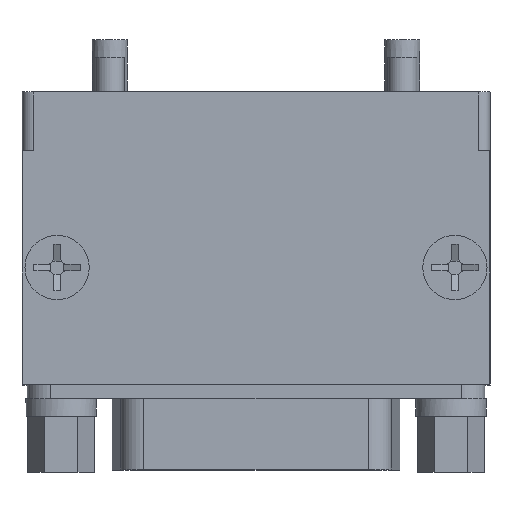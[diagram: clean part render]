
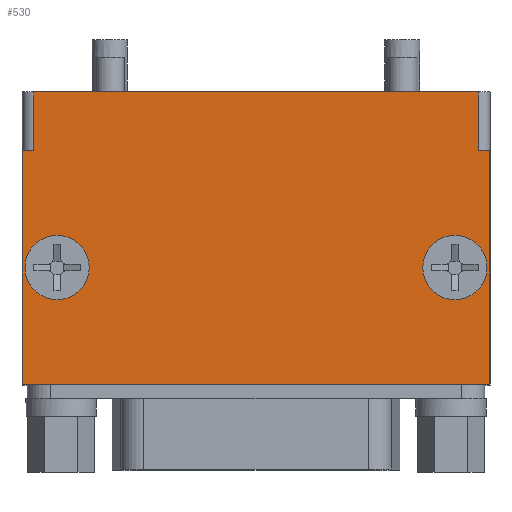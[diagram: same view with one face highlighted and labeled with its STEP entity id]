
A CAD part, top view. The second image highlights one B-rep face of the part: STEP entity #530.
In plain terms, the highlighted planar face has unit normal (0, 0, 1).
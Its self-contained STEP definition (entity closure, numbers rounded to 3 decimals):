
#530=ADVANCED_FACE('',(#1334,#1335,#1336),#1337,.F.);
#1334=FACE_BOUND('',#2570,.T.);
#1335=FACE_BOUND('',#2571,.T.);
#1336=FACE_OUTER_BOUND('',#2572,.T.);
#1337=PLANE('',#2573);
#2570=EDGE_LOOP('',(#4061));
#2571=EDGE_LOOP('',(#4062));
#2572=EDGE_LOOP('',(#4063,#4064,#4065,#4066,#4067,#4068,#4069,#4070));
#2573=AXIS2_PLACEMENT_3D('',#4071,#4072,#4073);
#4061=ORIENTED_EDGE('',*,*,#6393,.F.);
#4062=ORIENTED_EDGE('',*,*,#6394,.F.);
#4063=ORIENTED_EDGE('',*,*,#6395,.F.);
#4064=ORIENTED_EDGE('',*,*,#6363,.T.);
#4065=ORIENTED_EDGE('',*,*,#6396,.T.);
#4066=ORIENTED_EDGE('',*,*,#6374,.T.);
#4067=ORIENTED_EDGE('',*,*,#6397,.T.);
#4068=ORIENTED_EDGE('',*,*,#6333,.T.);
#4069=ORIENTED_EDGE('',*,*,#6398,.T.);
#4070=ORIENTED_EDGE('',*,*,#6327,.T.);
#4071=CARTESIAN_POINT('',(20.0,-5.0,12.5));
#4072=DIRECTION('',(0.0,0.0,-1.0));
#4073=DIRECTION('',(0.0,-1.0,0.0));
#6327=EDGE_CURVE('',#7358,#7355,#7359,.T.);
#6333=EDGE_CURVE('',#7368,#7366,#7369,.T.);
#6363=EDGE_CURVE('',#7420,#7417,#7421,.T.);
#6374=EDGE_CURVE('',#7436,#7434,#7437,.T.);
#6393=EDGE_CURVE('',#7462,#7462,#7463,.T.);
#6394=EDGE_CURVE('',#7464,#7464,#7465,.T.);
#6395=EDGE_CURVE('',#7420,#7355,#7466,.T.);
#6396=EDGE_CURVE('',#7417,#7436,#7467,.T.);
#6397=EDGE_CURVE('',#7434,#7368,#7468,.T.);
#6398=EDGE_CURVE('',#7366,#7358,#7469,.T.);
#7355=VERTEX_POINT('',#8834);
#7358=VERTEX_POINT('',#8837);
#7359=LINE('',#8838,#8839);
#7366=VERTEX_POINT('',#8848);
#7368=VERTEX_POINT('',#8851);
#7369=LINE('',#8852,#8853);
#7417=VERTEX_POINT('',#8914);
#7420=VERTEX_POINT('',#8917);
#7421=LINE('',#8918,#8919);
#7434=VERTEX_POINT('',#8935);
#7436=VERTEX_POINT('',#8938);
#7437=LINE('',#8939,#8940);
#7462=VERTEX_POINT('',#8976);
#7463=CIRCLE('',#8977,2.75);
#7464=VERTEX_POINT('',#8978);
#7465=CIRCLE('',#8979,2.75);
#7466=LINE('',#8980,#8981);
#7467=LINE('',#8982,#8983);
#7468=LINE('',#8984,#8985);
#7469=LINE('',#8986,#8987);
#8834=CARTESIAN_POINT('',(19.0,0.,12.5));
#8837=CARTESIAN_POINT('',(19.0,-5.0,12.5));
#8838=CARTESIAN_POINT('',(19.0,-5.0,12.5));
#8839=VECTOR('',#10440,1.0);
#8848=CARTESIAN_POINT('',(20.,-5.,12.5));
#8851=CARTESIAN_POINT('',(20.,-25.,12.5));
#8852=CARTESIAN_POINT('',(20.,-25.,12.5));
#8853=VECTOR('',#10447,1.0);
#8914=CARTESIAN_POINT('',(-19.0,-5.0,12.5));
#8917=CARTESIAN_POINT('',(-19.0,0.,12.5));
#8918=CARTESIAN_POINT('',(-19.0,-5.0,12.5));
#8919=VECTOR('',#10494,1.0);
#8935=CARTESIAN_POINT('',(-20.,-25.,12.5));
#8938=CARTESIAN_POINT('',(-20.,-5.,12.5));
#8939=CARTESIAN_POINT('',(-20.,-5.,12.5));
#8940=VECTOR('',#10508,1.0);
#8976=CARTESIAN_POINT('',(19.75,-15.0,12.5));
#8977=AXIS2_PLACEMENT_3D('',#10526,#10527,#10528);
#8978=CARTESIAN_POINT('',(-14.25,-15.0,12.5));
#8979=AXIS2_PLACEMENT_3D('',#10529,#10530,#10531);
#8980=CARTESIAN_POINT('',(-20.0,0.,12.5));
#8981=VECTOR('',#10532,1.0);
#8982=CARTESIAN_POINT('',(20.,-5.,12.5));
#8983=VECTOR('',#10533,1.0);
#8984=CARTESIAN_POINT('',(-20.,-25.,12.5));
#8985=VECTOR('',#10534,1.0);
#8986=CARTESIAN_POINT('',(20.,-5.,12.5));
#8987=VECTOR('',#10535,1.0);
#10440=DIRECTION('',(0.0,1.0,0.0));
#10447=DIRECTION('',(0.,1.0,0.));
#10494=DIRECTION('',(0.0,-1.0,0.0));
#10508=DIRECTION('',(0.,-1.0,0.));
#10526=CARTESIAN_POINT('',(17.0,-15.0,12.5));
#10527=DIRECTION('',(0.,0.0,1.0));
#10528=DIRECTION('',(1.0,0.0,0.));
#10529=CARTESIAN_POINT('',(-17.0,-15.0,12.5));
#10530=DIRECTION('',(0.,0.0,1.0));
#10531=DIRECTION('',(1.0,0.0,0.));
#10532=DIRECTION('',(1.0,0.0,0.0));
#10533=DIRECTION('',(-1.0,0.,0.));
#10534=DIRECTION('',(1.0,0.,0.));
#10535=DIRECTION('',(-1.0,0.,0.));
